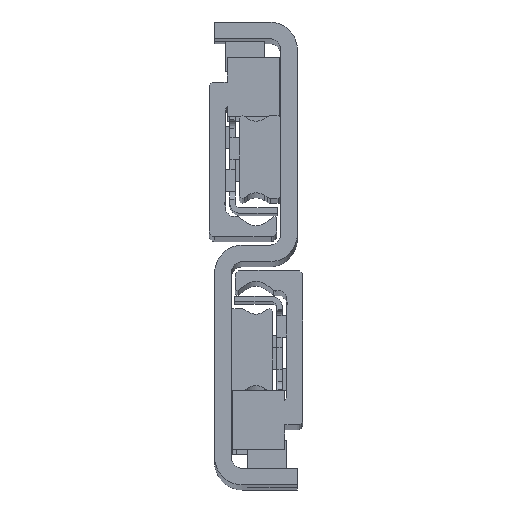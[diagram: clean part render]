
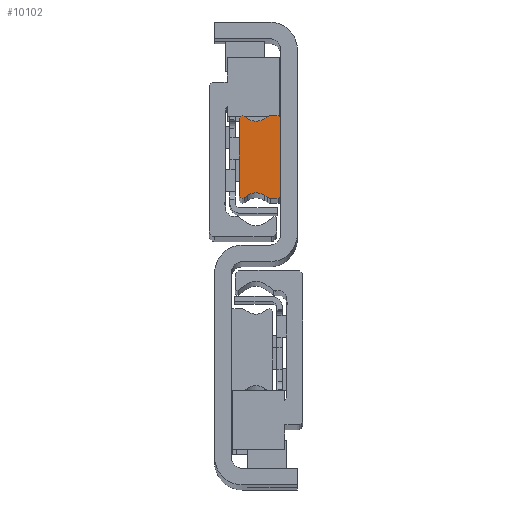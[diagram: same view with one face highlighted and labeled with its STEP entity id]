
A CAD part, top view. The second image highlights one B-rep face of the part: STEP entity #10102.
In plain terms, the highlighted planar face has unit normal (0, 0, 1) as drawn and (0, 0, -1) by its records, which use the part's own axes.
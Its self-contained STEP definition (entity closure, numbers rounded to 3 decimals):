
#10 = DIRECTION ( 'NONE',  ( 0., 0., 1. ) ) ;
#33 = ORIENTED_EDGE ( 'NONE', *, *, #1991, .F. ) ;
#40 = VERTEX_POINT ( 'NONE', #7273 ) ;
#108 = CARTESIAN_POINT ( 'NONE',  ( 2.907, 6.997, 0. ) ) ;
#441 = CARTESIAN_POINT ( 'NONE',  ( 2.446, 7.319, 0. ) ) ;
#603 = CARTESIAN_POINT ( 'NONE',  ( 7.5, -6.977, 0. ) ) ;
#622 = CARTESIAN_POINT ( 'NONE',  ( 6.677, -7.405, 0. ) ) ;
#623 = CARTESIAN_POINT ( 'NONE',  ( 2.907, -6.997, 0. ) ) ;
#761 = CARTESIAN_POINT ( 'NONE',  ( 7.5, 6.977, 0. ) ) ;
#770 = AXIS2_PLACEMENT_3D ( 'NONE', #9798, #10, #8164 ) ;
#789 = LINE ( 'NONE', #623, #5382 ) ;
#804 = PLANE ( 'NONE',  #7165 ) ;
#841 = DIRECTION ( 'NONE',  ( -1., 0., 0. ) ) ;
#903 = DIRECTION ( 'NONE',  ( -1., 0., 0. ) ) ;
#1119 = LINE ( 'NONE', #9861, #9295 ) ;
#1194 = VERTEX_POINT ( 'NONE', #8153 ) ;
#1276 = VERTEX_POINT ( 'NONE', #9918 ) ;
#1335 = AXIS2_PLACEMENT_3D ( 'NONE', #7936, #7866, #3076 ) ;
#1461 = EDGE_CURVE ( 'NONE', #40, #9351, #7164, .T. ) ;
#1577 = DIRECTION ( 'NONE',  ( 1., 0., 0. ) ) ;
#1604 = EDGE_CURVE ( 'NONE', #9556, #6449, #6114, .T. ) ;
#1686 = VERTEX_POINT ( 'NONE', #9620 ) ;
#1847 = DIRECTION ( 'NONE',  ( 0., -1., 0. ) ) ;
#1852 = EDGE_CURVE ( 'NONE', #2356, #1194, #7648, .T. ) ;
#1913 = VECTOR ( 'NONE', #7137, 1000. ) ;
#1946 = EDGE_CURVE ( 'NONE', #3613, #1686, #3057, .T. ) ;
#1991 = EDGE_CURVE ( 'NONE', #1276, #40, #1119, .T. ) ;
#2028 = EDGE_CURVE ( 'NONE', #7629, #3266, #10352, .T. ) ;
#2083 = ORIENTED_EDGE ( 'NONE', *, *, #6851, .F. ) ;
#2219 = VERTEX_POINT ( 'NONE', #3017 ) ;
#2226 = ORIENTED_EDGE ( 'NONE', *, *, #1852, .F. ) ;
#2328 = FACE_OUTER_BOUND ( 'NONE', #3854, .T. ) ;
#2339 = CARTESIAN_POINT ( 'NONE',  ( 2.446, 7.319, 0. ) ) ;
#2356 = VERTEX_POINT ( 'NONE', #8604 ) ;
#2457 = ORIENTED_EDGE ( 'NONE', *, *, #9038, .F. ) ;
#2476 = CARTESIAN_POINT ( 'NONE',  ( 6.977, -6.977, 0. ) ) ;
#2509 = ORIENTED_EDGE ( 'NONE', *, *, #1461, .F. ) ;
#2550 = DIRECTION ( 'NONE',  ( 0., 0., 1. ) ) ;
#2654 = ORIENTED_EDGE ( 'NONE', *, *, #4936, .F. ) ;
#3017 = CARTESIAN_POINT ( 'NONE',  ( 1.873, 7.5, 0. ) ) ;
#3057 = LINE ( 'NONE', #761, #6877 ) ;
#3071 = LINE ( 'NONE', #622, #1913 ) ;
#3076 = DIRECTION ( 'NONE',  ( -1., 0., 0. ) ) ;
#3124 = CARTESIAN_POINT ( 'NONE',  ( 6.093, -6.997, 0. ) ) ;
#3202 = CARTESIAN_POINT ( 'NONE',  ( 4.5, 9.272, 0. ) ) ;
#3247 = CARTESIAN_POINT ( 'NONE',  ( 0., -7., 0. ) ) ;
#3266 = VERTEX_POINT ( 'NONE', #7126 ) ;
#3324 = DIRECTION ( 'NONE',  ( 0., 0., 1. ) ) ;
#3341 = EDGE_CURVE ( 'NONE', #2219, #2356, #5046, .T. ) ;
#3440 = DIRECTION ( 'NONE',  ( 1., 0., 0. ) ) ;
#3613 = VERTEX_POINT ( 'NONE', #603 ) ;
#3646 = EDGE_CURVE ( 'NONE', #6449, #2219, #5274, .T. ) ;
#3671 = ORIENTED_EDGE ( 'NONE', *, *, #8243, .F. ) ;
#3771 = CARTESIAN_POINT ( 'NONE',  ( 0.5, 7.5, 0. ) ) ;
#3790 = ORIENTED_EDGE ( 'NONE', *, *, #1604, .F. ) ;
#3854 = EDGE_LOOP ( 'NONE', ( #3671, #9105, #5887, #5665, #2083, #2654, #2509, #33, #2457, #5025, #2226, #5652, #4013, #3790, #4038, #8128 ) ) ;
#3863 = AXIS2_PLACEMENT_3D ( 'NONE', #9979, #10134, #4303 ) ;
#4013 = ORIENTED_EDGE ( 'NONE', *, *, #3646, .F. ) ;
#4017 = DIRECTION ( 'NONE',  ( 0., 0., -1. ) ) ;
#4038 = ORIENTED_EDGE ( 'NONE', *, *, #9524, .F. ) ;
#4303 = DIRECTION ( 'NONE',  ( -1., 0., 0. ) ) ;
#4609 = DIRECTION ( 'NONE',  ( -1., 0., 0. ) ) ;
#4666 = EDGE_CURVE ( 'NONE', #1194, #10005, #7436, .T. ) ;
#4811 = CIRCLE ( 'NONE', #8236, 2.778 ) ;
#4866 = CARTESIAN_POINT ( 'NONE',  ( 4.5, -9.272, 0. ) ) ;
#4936 = EDGE_CURVE ( 'NONE', #9351, #7272, #789, .T. ) ;
#5025 = ORIENTED_EDGE ( 'NONE', *, *, #4666, .F. ) ;
#5046 = LINE ( 'NONE', #3771, #7620 ) ;
#5078 = EDGE_CURVE ( 'NONE', #7601, #3613, #7685, .T. ) ;
#5079 = VECTOR ( 'NONE', #6621, 1000. ) ;
#5274 = CIRCLE ( 'NONE', #1335, 1. ) ;
#5382 = VECTOR ( 'NONE', #10390, 1000. ) ;
#5383 = AXIS2_PLACEMENT_3D ( 'NONE', #2476, #7386, #6511 ) ;
#5652 = ORIENTED_EDGE ( 'NONE', *, *, #3341, .F. ) ;
#5665 = ORIENTED_EDGE ( 'NONE', *, *, #5963, .F. ) ;
#5887 = ORIENTED_EDGE ( 'NONE', *, *, #5078, .F. ) ;
#5963 = EDGE_CURVE ( 'NONE', #10551, #7601, #3071, .T. ) ;
#6114 = LINE ( 'NONE', #441, #6753 ) ;
#6296 = CARTESIAN_POINT ( 'NONE',  ( 2.446, -7.319, 0. ) ) ;
#6449 = VERTEX_POINT ( 'NONE', #2339 ) ;
#6511 = DIRECTION ( 'NONE',  ( -1., 0., 0. ) ) ;
#6621 = DIRECTION ( 'NONE',  ( -0.819, -0.574, 0. ) ) ;
#6627 = CARTESIAN_POINT ( 'NONE',  ( 0.5, -7., 0. ) ) ;
#6753 = VECTOR ( 'NONE', #7776, 1000. ) ;
#6851 = EDGE_CURVE ( 'NONE', #7272, #10551, #4811, .T. ) ;
#6877 = VECTOR ( 'NONE', #8229, 1000. ) ;
#6955 = AXIS2_PLACEMENT_3D ( 'NONE', #3202, #4017, #1577 ) ;
#6985 = CARTESIAN_POINT ( 'NONE',  ( 2.907, -6.997, 0. ) ) ;
#7126 = CARTESIAN_POINT ( 'NONE',  ( 6.093, 6.997, 0. ) ) ;
#7137 = DIRECTION ( 'NONE',  ( 0.819, -0.574, 0. ) ) ;
#7164 = CIRCLE ( 'NONE', #3863, 1. ) ;
#7165 = AXIS2_PLACEMENT_3D ( 'NONE', #9839, #9109, #903 ) ;
#7272 = VERTEX_POINT ( 'NONE', #6985 ) ;
#7273 = CARTESIAN_POINT ( 'NONE',  ( 1.873, -7.5, 0. ) ) ;
#7386 = DIRECTION ( 'NONE',  ( 0., 0., 1. ) ) ;
#7395 = DIRECTION ( 'NONE',  ( 0., 0., -1. ) ) ;
#7397 = CARTESIAN_POINT ( 'NONE',  ( 6.977, 6.977, 0. ) ) ;
#7436 = LINE ( 'NONE', #9982, #8835 ) ;
#7495 = CIRCLE ( 'NONE', #7833, 0.523 ) ;
#7565 = DIRECTION ( 'NONE',  ( 1., 0., 0. ) ) ;
#7601 = VERTEX_POINT ( 'NONE', #8191 ) ;
#7620 = VECTOR ( 'NONE', #4609, 1000. ) ;
#7629 = VERTEX_POINT ( 'NONE', #9997 ) ;
#7648 = CIRCLE ( 'NONE', #770, 0.5 ) ;
#7685 = CIRCLE ( 'NONE', #5383, 0.523 ) ;
#7743 = CIRCLE ( 'NONE', #8117, 0.5 ) ;
#7776 = DIRECTION ( 'NONE',  ( -0.819, 0.574, 0. ) ) ;
#7833 = AXIS2_PLACEMENT_3D ( 'NONE', #7397, #3324, #8179 ) ;
#7866 = DIRECTION ( 'NONE',  ( 0., 0., 1. ) ) ;
#7936 = CARTESIAN_POINT ( 'NONE',  ( 1.873, 6.5, 0. ) ) ;
#8117 = AXIS2_PLACEMENT_3D ( 'NONE', #6627, #2550, #841 ) ;
#8128 = ORIENTED_EDGE ( 'NONE', *, *, #2028, .F. ) ;
#8153 = CARTESIAN_POINT ( 'NONE',  ( 0., 7., 0. ) ) ;
#8164 = DIRECTION ( 'NONE',  ( -1., 0., 0. ) ) ;
#8179 = DIRECTION ( 'NONE',  ( -1., 0., 0. ) ) ;
#8191 = CARTESIAN_POINT ( 'NONE',  ( 6.677, -7.405, 0. ) ) ;
#8229 = DIRECTION ( 'NONE',  ( 0., 1., 0. ) ) ;
#8236 = AXIS2_PLACEMENT_3D ( 'NONE', #4866, #7395, #7565 ) ;
#8243 = EDGE_CURVE ( 'NONE', #1686, #7629, #7495, .T. ) ;
#8604 = CARTESIAN_POINT ( 'NONE',  ( 0.5, 7.5, 0. ) ) ;
#8746 = CIRCLE ( 'NONE', #6955, 2.778 ) ;
#8835 = VECTOR ( 'NONE', #1847, 1000. ) ;
#9038 = EDGE_CURVE ( 'NONE', #10005, #1276, #7743, .T. ) ;
#9100 = CARTESIAN_POINT ( 'NONE',  ( 6.093, 6.997, 0. ) ) ;
#9105 = ORIENTED_EDGE ( 'NONE', *, *, #1946, .F. ) ;
#9109 = DIRECTION ( 'NONE',  ( 0., 0., -1. ) ) ;
#9295 = VECTOR ( 'NONE', #3440, 1000. ) ;
#9351 = VERTEX_POINT ( 'NONE', #6296 ) ;
#9524 = EDGE_CURVE ( 'NONE', #3266, #9556, #8746, .T. ) ;
#9556 = VERTEX_POINT ( 'NONE', #108 ) ;
#9620 = CARTESIAN_POINT ( 'NONE',  ( 7.5, 6.977, 0. ) ) ;
#9798 = CARTESIAN_POINT ( 'NONE',  ( 0.5, 7., 0. ) ) ;
#9839 = CARTESIAN_POINT ( 'NONE',  ( 6.977, 6.977, 0. ) ) ;
#9861 = CARTESIAN_POINT ( 'NONE',  ( 1.873, -7.5, 0. ) ) ;
#9918 = CARTESIAN_POINT ( 'NONE',  ( 0.5, -7.5, 0. ) ) ;
#9979 = CARTESIAN_POINT ( 'NONE',  ( 1.873, -6.5, 0. ) ) ;
#9982 = CARTESIAN_POINT ( 'NONE',  ( 0., -7., 0. ) ) ;
#9997 = CARTESIAN_POINT ( 'NONE',  ( 6.677, 7.405, 0. ) ) ;
#10005 = VERTEX_POINT ( 'NONE', #3247 ) ;
#10102 = ADVANCED_FACE ( 'NONE', ( #2328 ), #804, .T. ) ;
#10134 = DIRECTION ( 'NONE',  ( 0., 0., 1. ) ) ;
#10352 = LINE ( 'NONE', #9100, #5079 ) ;
#10390 = DIRECTION ( 'NONE',  ( 0.819, 0.574, 0. ) ) ;
#10551 = VERTEX_POINT ( 'NONE', #3124 ) ;
